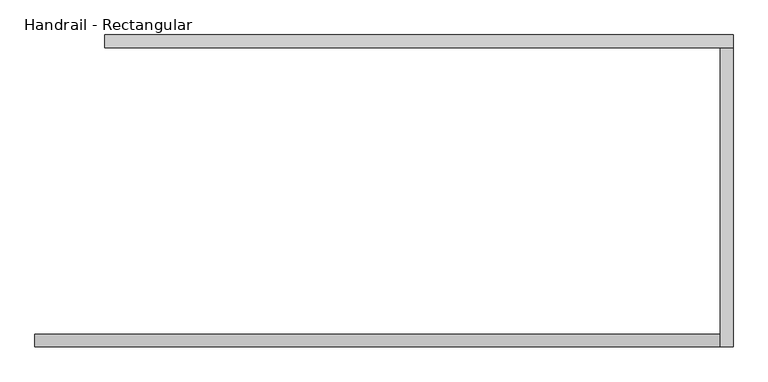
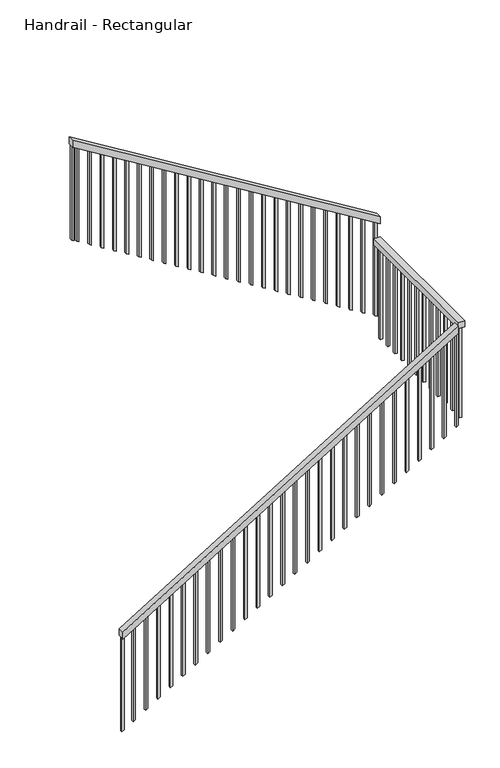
"""IFC4 building model written with IfcOpenShell, lengths in millimetres: railing geometry, Handrail - Rectangular."""

from ifc_helpers import new_model, si_unit, frame, origin, place, context, project, spatial, polyline, outline, extrude, source, transform, mapped, element, save


def handrail_rectangular_457fed54(model_context):
    return source(origin(), model_context, "Body", "SweptSolid", [
        extrude(outline(polyline([(31565.85, 447.564747), (31506.2481634, 447.564747), (33189.5754361, 3190.764747), (33249.1772727, 3190.764747), (31565.85, 447.564747)])), frame((0.0, 7683.6260405, 0.0), z_axis=(0.0, 1.0, 0.0), x_axis=(0.0, 0.0, 1.0)), (0.0, 0.0, 1.0), 50.8),
        extrude(outline(polyline([(3241.564747, 7683.6260405), (3190.764747, 7683.6260405), (3190.764747, 8880.6010405), (3241.564747, 8880.6010405), (3241.564747, 7683.6260405)])), frame((0.0, 0.0, 33229.55), z_axis=(0.0, 0.0, 1.0), x_axis=(1.0, 0.0, 0.0)), (0.0, 0.0, 1.0), 50.8),
        extrude(outline(polyline([(33392.1981634, 3241.564747), (33451.8, 3241.564747), (34994.85, 726.964747), (34935.2481634, 726.964747), (33392.1981634, 3241.564747)])), frame((0.0, 8880.6010405, 0.0), z_axis=(0.0, 1.0, 0.0), x_axis=(0.0, 0.0, 1.0)), (0.0, 0.0, 1.0), 50.8),
        extrude(outline(polyline([(34909.9203225, 768.239747), (34096.4979284, 768.239747), (34084.8081556, 787.289747), (34898.2305498, 787.289747), (34909.9203225, 768.239747)])), frame((0.0, 8896.4760405, 0.0), z_axis=(0.0, 1.0, 0.0), x_axis=(0.0, 0.0, 1.0)), (0.0, 0.0, 1.0), 19.05),
        extrude(outline(polyline([(34847.5748679, 869.839747), (34034.1524738, 869.839747), (34022.4627011, 888.889747), (34835.8850952, 888.889747), (34847.5748679, 869.839747)])), frame((0.0, 8896.4760405, 0.0), z_axis=(0.0, 1.0, 0.0), x_axis=(0.0, 0.0, 1.0)), (0.0, 0.0, 1.0), 19.05),
        extrude(outline(polyline([(34785.2294134, 971.439747), (33971.8070193, 971.439747), (33960.1172466, 990.489747), (34773.5396407, 990.489747), (34785.2294134, 971.439747)])), frame((0.0, 8896.4760405, 0.0), z_axis=(0.0, 1.0, 0.0), x_axis=(0.0, 0.0, 1.0)), (0.0, 0.0, 1.0), 19.05),
        extrude(outline(polyline([(34722.8839589, 1073.039747), (33909.4615647, 1073.039747), (33897.771792, 1092.089747), (34711.1941861, 1092.089747), (34722.8839589, 1073.039747)])), frame((0.0, 8896.4760405, 0.0), z_axis=(0.0, 1.0, 0.0), x_axis=(0.0, 0.0, 1.0)), (0.0, 0.0, 1.0), 19.05),
        extrude(outline(polyline([(34660.5385043, 1174.639747), (33847.1161102, 1174.639747), (33835.4263375, 1193.689747), (34648.8487316, 1193.689747), (34660.5385043, 1174.639747)])), frame((0.0, 8896.4760405, 0.0), z_axis=(0.0, 1.0, 0.0), x_axis=(0.0, 0.0, 1.0)), (0.0, 0.0, 1.0), 19.05),
        extrude(outline(polyline([(34598.1930498, 1276.239747), (33784.7706556, 1276.239747), (33773.0808829, 1295.289747), (34586.503277, 1295.289747), (34598.1930498, 1276.239747)])), frame((0.0, 8896.4760405, 0.0), z_axis=(0.0, 1.0, 0.0), x_axis=(0.0, 0.0, 1.0)), (0.0, 0.0, 1.0), 19.05),
        extrude(outline(polyline([(34535.8475952, 1377.839747), (33722.4252011, 1377.839747), (33710.7354284, 1396.889747), (34524.1578225, 1396.889747), (34535.8475952, 1377.839747)])), frame((0.0, 8896.4760405, 0.0), z_axis=(0.0, 1.0, 0.0), x_axis=(0.0, 0.0, 1.0)), (0.0, 0.0, 1.0), 19.05),
        extrude(outline(polyline([(34473.5021407, 1479.439747), (33660.0797466, 1479.439747), (33648.3899738, 1498.489747), (34461.8123679, 1498.489747), (34473.5021407, 1479.439747)])), frame((0.0, 8896.4760405, 0.0), z_axis=(0.0, 1.0, 0.0), x_axis=(0.0, 0.0, 1.0)), (0.0, 0.0, 1.0), 19.05),
        extrude(outline(polyline([(34411.1566861, 1581.039747), (33597.734292, 1581.039747), (33586.0445193, 1600.089747), (34399.4669134, 1600.089747), (34411.1566861, 1581.039747)])), frame((0.0, 8896.4760405, 0.0), z_axis=(0.0, 1.0, 0.0), x_axis=(0.0, 0.0, 1.0)), (0.0, 0.0, 1.0), 19.05),
        extrude(outline(polyline([(34348.8112316, 1682.639747), (33535.3888375, 1682.639747), (33523.6990647, 1701.689747), (34337.1214589, 1701.689747), (34348.8112316, 1682.639747)])), frame((0.0, 8896.4760405, 0.0), z_axis=(0.0, 1.0, 0.0), x_axis=(0.0, 0.0, 1.0)), (0.0, 0.0, 1.0), 19.05),
        extrude(outline(polyline([(34286.465777, 1784.239747), (33473.0433829, 1784.239747), (33461.3536102, 1803.289747), (34274.7760043, 1803.289747), (34286.465777, 1784.239747)])), frame((0.0, 8896.4760405, 0.0), z_axis=(0.0, 1.0, 0.0), x_axis=(0.0, 0.0, 1.0)), (0.0, 0.0, 1.0), 19.05),
        extrude(outline(polyline([(34224.1203225, 1885.839747), (33410.6979284, 1885.839747), (33399.0081556, 1904.889747), (34212.4305498, 1904.889747), (34224.1203225, 1885.839747)])), frame((0.0, 8896.4760405, 0.0), z_axis=(0.0, 1.0, 0.0), x_axis=(0.0, 0.0, 1.0)), (0.0, 0.0, 1.0), 19.05),
        extrude(outline(polyline([(34161.7748679, 1987.439747), (33348.3524738, 1987.439747), (33336.6627011, 2006.489747), (34150.0850952, 2006.489747), (34161.7748679, 1987.439747)])), frame((0.0, 8896.4760405, 0.0), z_axis=(0.0, 1.0, 0.0), x_axis=(0.0, 0.0, 1.0)), (0.0, 0.0, 1.0), 19.05),
        extrude(outline(polyline([(34099.4294134, 2089.039747), (33286.0070193, 2089.039747), (33274.3172466, 2108.089747), (34087.7396407, 2108.089747), (34099.4294134, 2089.039747)])), frame((0.0, 8896.4760405, 0.0), z_axis=(0.0, 1.0, 0.0), x_axis=(0.0, 0.0, 1.0)), (0.0, 0.0, 1.0), 19.05),
        extrude(outline(polyline([(34037.0839589, 2190.639747), (33223.6615647, 2190.639747), (33211.971792, 2209.689747), (34025.3941861, 2209.689747), (34037.0839589, 2190.639747)])), frame((0.0, 8896.4760405, 0.0), z_axis=(0.0, 1.0, 0.0), x_axis=(0.0, 0.0, 1.0)), (0.0, 0.0, 1.0), 19.05),
        extrude(outline(polyline([(33974.7385043, 2292.239747), (33161.3161102, 2292.239747), (33149.6263375, 2311.289747), (33963.0487316, 2311.289747), (33974.7385043, 2292.239747)])), frame((0.0, 8896.4760405, 0.0), z_axis=(0.0, 1.0, 0.0), x_axis=(0.0, 0.0, 1.0)), (0.0, 0.0, 1.0), 19.05),
        extrude(outline(polyline([(33912.3930498, 2393.839747), (33098.9706556, 2393.839747), (33087.2808829, 2412.889747), (33900.703277, 2412.889747), (33912.3930498, 2393.839747)])), frame((0.0, 8896.4760405, 0.0), z_axis=(0.0, 1.0, 0.0), x_axis=(0.0, 0.0, 1.0)), (0.0, 0.0, 1.0), 19.05),
        extrude(outline(polyline([(33850.0475952, 2495.439747), (33036.6252011, 2495.439747), (33024.9354284, 2514.489747), (33838.3578225, 2514.489747), (33850.0475952, 2495.439747)])), frame((0.0, 8896.4760405, 0.0), z_axis=(0.0, 1.0, 0.0), x_axis=(0.0, 0.0, 1.0)), (0.0, 0.0, 1.0), 19.05),
        extrude(outline(polyline([(33787.7021407, 2597.039747), (32974.2797466, 2597.039747), (32962.5899738, 2616.089747), (33776.0123679, 2616.089747), (33787.7021407, 2597.039747)])), frame((0.0, 8896.4760405, 0.0), z_axis=(0.0, 1.0, 0.0), x_axis=(0.0, 0.0, 1.0)), (0.0, 0.0, 1.0), 19.05),
        extrude(outline(polyline([(33725.3566861, 2698.639747), (32911.934292, 2698.639747), (32900.2445193, 2717.689747), (33713.6669134, 2717.689747), (33725.3566861, 2698.639747)])), frame((0.0, 8896.4760405, 0.0), z_axis=(0.0, 1.0, 0.0), x_axis=(0.0, 0.0, 1.0)), (0.0, 0.0, 1.0), 19.05),
        extrude(outline(polyline([(33663.0112316, 2800.239747), (32849.5888375, 2800.239747), (32837.8990647, 2819.289747), (33651.3214589, 2819.289747), (33663.0112316, 2800.239747)])), frame((0.0, 8896.4760405, 0.0), z_axis=(0.0, 1.0, 0.0), x_axis=(0.0, 0.0, 1.0)), (0.0, 0.0, 1.0), 19.05),
        extrude(outline(polyline([(33600.665777, 2901.839747), (32787.2433829, 2901.839747), (32775.5536102, 2920.889747), (33588.9760043, 2920.889747), (33600.665777, 2901.839747)])), frame((0.0, 8896.4760405, 0.0), z_axis=(0.0, 1.0, 0.0), x_axis=(0.0, 0.0, 1.0)), (0.0, 0.0, 1.0), 19.05),
        extrude(outline(polyline([(33538.3203225, 3003.439747), (32724.8979284, 3003.439747), (32713.2081556, 3022.489747), (33526.6305498, 3022.489747), (33538.3203225, 3003.439747)])), frame((0.0, 8896.4760405, 0.0), z_axis=(0.0, 1.0, 0.0), x_axis=(0.0, 0.0, 1.0)), (0.0, 0.0, 1.0), 19.05),
        extrude(outline(polyline([(33475.9748679, 3105.039747), (32662.5524738, 3105.039747), (32650.8627011, 3124.089747), (33464.2850952, 3124.089747), (33475.9748679, 3105.039747)])), frame((0.0, 8896.4760405, 0.0), z_axis=(0.0, 1.0, 0.0), x_axis=(0.0, 0.0, 1.0)), (0.0, 0.0, 1.0), 19.05),
        extrude(outline(polyline([(3206.639747, 8817.1010405), (3206.639747, 8836.1510405), (3225.689747, 8836.1510405), (3225.689747, 8817.1010405), (3206.639747, 8817.1010405)])), frame((0.0, 0.0, 32442.15), z_axis=(0.0, 0.0, 1.0), x_axis=(1.0, 0.0, 0.0)), (0.0, 0.0, 1.0), 787.4),
        extrude(outline(polyline([(3206.639747, 8715.5010405), (3206.639747, 8734.5510405), (3225.689747, 8734.5510405), (3225.689747, 8715.5010405), (3206.639747, 8715.5010405)])), frame((0.0, 0.0, 32442.15), z_axis=(0.0, 0.0, 1.0), x_axis=(1.0, 0.0, 0.0)), (0.0, 0.0, 1.0), 787.4),
        extrude(outline(polyline([(3206.639747, 8613.9010405), (3206.639747, 8632.9510405), (3225.689747, 8632.9510405), (3225.689747, 8613.9010405), (3206.639747, 8613.9010405)])), frame((0.0, 0.0, 32442.15), z_axis=(0.0, 0.0, 1.0), x_axis=(1.0, 0.0, 0.0)), (0.0, 0.0, 1.0), 787.4),
        extrude(outline(polyline([(3206.639747, 8512.3010405), (3206.639747, 8531.3510405), (3225.689747, 8531.3510405), (3225.689747, 8512.3010405), (3206.639747, 8512.3010405)])), frame((0.0, 0.0, 32442.15), z_axis=(0.0, 0.0, 1.0), x_axis=(1.0, 0.0, 0.0)), (0.0, 0.0, 1.0), 787.4),
        extrude(outline(polyline([(3206.639747, 8410.7010405), (3206.639747, 8429.7510405), (3225.689747, 8429.7510405), (3225.689747, 8410.7010405), (3206.639747, 8410.7010405)])), frame((0.0, 0.0, 32442.15), z_axis=(0.0, 0.0, 1.0), x_axis=(1.0, 0.0, 0.0)), (0.0, 0.0, 1.0), 787.4),
        extrude(outline(polyline([(3206.639747, 8309.1010405), (3206.639747, 8328.1510405), (3225.689747, 8328.1510405), (3225.689747, 8309.1010405), (3206.639747, 8309.1010405)])), frame((0.0, 0.0, 32442.15), z_axis=(0.0, 0.0, 1.0), x_axis=(1.0, 0.0, 0.0)), (0.0, 0.0, 1.0), 787.4),
        extrude(outline(polyline([(3206.639747, 8207.5010405), (3206.639747, 8226.5510405), (3225.689747, 8226.5510405), (3225.689747, 8207.5010405), (3206.639747, 8207.5010405)])), frame((0.0, 0.0, 32442.15), z_axis=(0.0, 0.0, 1.0), x_axis=(1.0, 0.0, 0.0)), (0.0, 0.0, 1.0), 787.4),
        extrude(outline(polyline([(3206.639747, 8105.9010405), (3206.639747, 8124.9510405), (3225.689747, 8124.9510405), (3225.689747, 8105.9010405), (3206.639747, 8105.9010405)])), frame((0.0, 0.0, 32442.15), z_axis=(0.0, 0.0, 1.0), x_axis=(1.0, 0.0, 0.0)), (0.0, 0.0, 1.0), 787.4),
        extrude(outline(polyline([(3206.639747, 8004.3010405), (3206.639747, 8023.3510405), (3225.689747, 8023.3510405), (3225.689747, 8004.3010405), (3206.639747, 8004.3010405)])), frame((0.0, 0.0, 32442.15), z_axis=(0.0, 0.0, 1.0), x_axis=(1.0, 0.0, 0.0)), (0.0, 0.0, 1.0), 787.4),
        extrude(outline(polyline([(3206.639747, 7902.7010405), (3206.639747, 7921.7510405), (3225.689747, 7921.7510405), (3225.689747, 7902.7010405), (3206.639747, 7902.7010405)])), frame((0.0, 0.0, 32442.15), z_axis=(0.0, 0.0, 1.0), x_axis=(1.0, 0.0, 0.0)), (0.0, 0.0, 1.0), 787.4),
        extrude(outline(polyline([(3206.639747, 7801.1010405), (3206.639747, 7820.1510405), (3225.689747, 7820.1510405), (3225.689747, 7801.1010405), (3206.639747, 7801.1010405)])), frame((0.0, 0.0, 32442.15), z_axis=(0.0, 0.0, 1.0), x_axis=(1.0, 0.0, 0.0)), (0.0, 0.0, 1.0), 787.4),
        extrude(outline(polyline([(33183.7305498, 3181.239747), (32370.3081556, 3181.239747), (32381.9979284, 3200.289747), (33195.4203225, 3200.289747), (33183.7305498, 3181.239747)])), frame((0.0, 7699.5010405, 0.0), z_axis=(0.0, 1.0, 0.0), x_axis=(0.0, 0.0, 1.0)), (0.0, 0.0, 1.0), 19.05),
        extrude(outline(polyline([(33121.3850952, 3079.639747), (32307.9627011, 3079.639747), (32319.6524738, 3098.689747), (33133.0748679, 3098.689747), (33121.3850952, 3079.639747)])), frame((0.0, 7699.5010405, 0.0), z_axis=(0.0, 1.0, 0.0), x_axis=(0.0, 0.0, 1.0)), (0.0, 0.0, 1.0), 19.05),
        extrude(outline(polyline([(33059.0396407, 2978.039747), (32245.6172466, 2978.039747), (32257.3070193, 2997.089747), (33070.7294134, 2997.089747), (33059.0396407, 2978.039747)])), frame((0.0, 7699.5010405, 0.0), z_axis=(0.0, 1.0, 0.0), x_axis=(0.0, 0.0, 1.0)), (0.0, 0.0, 1.0), 19.05),
        extrude(outline(polyline([(32996.6941861, 2876.439747), (32183.271792, 2876.439747), (32194.9615647, 2895.489747), (33008.3839589, 2895.489747), (32996.6941861, 2876.439747)])), frame((0.0, 7699.5010405, 0.0), z_axis=(0.0, 1.0, 0.0), x_axis=(0.0, 0.0, 1.0)), (0.0, 0.0, 1.0), 19.05),
        extrude(outline(polyline([(32934.3487316, 2774.839747), (32120.9263375, 2774.839747), (32132.6161102, 2793.889747), (32946.0385043, 2793.889747), (32934.3487316, 2774.839747)])), frame((0.0, 7699.5010405, 0.0), z_axis=(0.0, 1.0, 0.0), x_axis=(0.0, 0.0, 1.0)), (0.0, 0.0, 1.0), 19.05),
        extrude(outline(polyline([(32872.003277, 2673.239747), (32058.5808829, 2673.239747), (32070.2706556, 2692.289747), (32883.6930498, 2692.289747), (32872.003277, 2673.239747)])), frame((0.0, 7699.5010405, 0.0), z_axis=(0.0, 1.0, 0.0), x_axis=(0.0, 0.0, 1.0)), (0.0, 0.0, 1.0), 19.05),
        extrude(outline(polyline([(32809.6578225, 2571.639747), (31996.2354284, 2571.639747), (32007.9252011, 2590.689747), (32821.3475952, 2590.689747), (32809.6578225, 2571.639747)])), frame((0.0, 7699.5010405, 0.0), z_axis=(0.0, 1.0, 0.0), x_axis=(0.0, 0.0, 1.0)), (0.0, 0.0, 1.0), 19.05),
        extrude(outline(polyline([(32747.3123679, 2470.039747), (31933.8899738, 2470.039747), (31945.5797466, 2489.089747), (32759.0021407, 2489.089747), (32747.3123679, 2470.039747)])), frame((0.0, 7699.5010405, 0.0), z_axis=(0.0, 1.0, 0.0), x_axis=(0.0, 0.0, 1.0)), (0.0, 0.0, 1.0), 19.05),
        extrude(outline(polyline([(32684.9669134, 2368.439747), (31871.5445193, 2368.439747), (31883.234292, 2387.489747), (32696.6566861, 2387.489747), (32684.9669134, 2368.439747)])), frame((0.0, 7699.5010405, 0.0), z_axis=(0.0, 1.0, 0.0), x_axis=(0.0, 0.0, 1.0)), (0.0, 0.0, 1.0), 19.05),
        extrude(outline(polyline([(32622.6214589, 2266.839747), (31809.1990647, 2266.839747), (31820.8888375, 2285.889747), (32634.3112316, 2285.889747), (32622.6214589, 2266.839747)])), frame((0.0, 7699.5010405, 0.0), z_axis=(0.0, 1.0, 0.0), x_axis=(0.0, 0.0, 1.0)), (0.0, 0.0, 1.0), 19.05),
        extrude(outline(polyline([(32560.2760043, 2165.239747), (31746.8536102, 2165.239747), (31758.5433829, 2184.289747), (32571.965777, 2184.289747), (32560.2760043, 2165.239747)])), frame((0.0, 7699.5010405, 0.0), z_axis=(0.0, 1.0, 0.0), x_axis=(0.0, 0.0, 1.0)), (0.0, 0.0, 1.0), 19.05),
        extrude(outline(polyline([(32497.9305498, 2063.639747), (31684.5081556, 2063.639747), (31696.1979284, 2082.689747), (32509.6203225, 2082.689747), (32497.9305498, 2063.639747)])), frame((0.0, 7699.5010405, 0.0), z_axis=(0.0, 1.0, 0.0), x_axis=(0.0, 0.0, 1.0)), (0.0, 0.0, 1.0), 19.05),
        extrude(outline(polyline([(32435.5850952, 1962.039747), (31622.1627011, 1962.039747), (31633.8524738, 1981.089747), (32447.2748679, 1981.089747), (32435.5850952, 1962.039747)])), frame((0.0, 7699.5010405, 0.0), z_axis=(0.0, 1.0, 0.0), x_axis=(0.0, 0.0, 1.0)), (0.0, 0.0, 1.0), 19.05),
        extrude(outline(polyline([(32373.2396407, 1860.439747), (31559.8172466, 1860.439747), (31571.5070193, 1879.489747), (32384.9294134, 1879.489747), (32373.2396407, 1860.439747)])), frame((0.0, 7699.5010405, 0.0), z_axis=(0.0, 1.0, 0.0), x_axis=(0.0, 0.0, 1.0)), (0.0, 0.0, 1.0), 19.05),
        extrude(outline(polyline([(32310.8941861, 1758.839747), (31497.471792, 1758.839747), (31509.1615647, 1777.889747), (32322.5839589, 1777.889747), (32310.8941861, 1758.839747)])), frame((0.0, 7699.5010405, 0.0), z_axis=(0.0, 1.0, 0.0), x_axis=(0.0, 0.0, 1.0)), (0.0, 0.0, 1.0), 19.05),
        extrude(outline(polyline([(32248.5487316, 1657.239747), (31435.1263375, 1657.239747), (31446.8161102, 1676.289747), (32260.2385043, 1676.289747), (32248.5487316, 1657.239747)])), frame((0.0, 7699.5010405, 0.0), z_axis=(0.0, 1.0, 0.0), x_axis=(0.0, 0.0, 1.0)), (0.0, 0.0, 1.0), 19.05),
        extrude(outline(polyline([(32186.203277, 1555.639747), (31372.7808829, 1555.639747), (31384.4706556, 1574.689747), (32197.8930498, 1574.689747), (32186.203277, 1555.639747)])), frame((0.0, 7699.5010405, 0.0), z_axis=(0.0, 1.0, 0.0), x_axis=(0.0, 0.0, 1.0)), (0.0, 0.0, 1.0), 19.05),
        extrude(outline(polyline([(32123.8578225, 1454.039747), (31310.4354284, 1454.039747), (31322.1252011, 1473.089747), (32135.5475952, 1473.089747), (32123.8578225, 1454.039747)])), frame((0.0, 7699.5010405, 0.0), z_axis=(0.0, 1.0, 0.0), x_axis=(0.0, 0.0, 1.0)), (0.0, 0.0, 1.0), 19.05),
        extrude(outline(polyline([(32061.5123679, 1352.439747), (31248.0899738, 1352.439747), (31259.7797466, 1371.489747), (32073.2021407, 1371.489747), (32061.5123679, 1352.439747)])), frame((0.0, 7699.5010405, 0.0), z_axis=(0.0, 1.0, 0.0), x_axis=(0.0, 0.0, 1.0)), (0.0, 0.0, 1.0), 19.05),
        extrude(outline(polyline([(31999.1669134, 1250.839747), (31185.7445193, 1250.839747), (31197.434292, 1269.889747), (32010.8566861, 1269.889747), (31999.1669134, 1250.839747)])), frame((0.0, 7699.5010405, 0.0), z_axis=(0.0, 1.0, 0.0), x_axis=(0.0, 0.0, 1.0)), (0.0, 0.0, 1.0), 19.05),
        extrude(outline(polyline([(31936.8214589, 1149.239747), (31123.3990647, 1149.239747), (31135.0888375, 1168.289747), (31948.5112316, 1168.289747), (31936.8214589, 1149.239747)])), frame((0.0, 7699.5010405, 0.0), z_axis=(0.0, 1.0, 0.0), x_axis=(0.0, 0.0, 1.0)), (0.0, 0.0, 1.0), 19.05),
        extrude(outline(polyline([(31874.4760043, 1047.639747), (31061.0536102, 1047.639747), (31072.7433829, 1066.689747), (31886.165777, 1066.689747), (31874.4760043, 1047.639747)])), frame((0.0, 7699.5010405, 0.0), z_axis=(0.0, 1.0, 0.0), x_axis=(0.0, 0.0, 1.0)), (0.0, 0.0, 1.0), 19.05),
        extrude(outline(polyline([(31812.1305498, 946.039747), (30998.7081556, 946.039747), (31010.3979284, 965.089747), (31823.8203225, 965.089747), (31812.1305498, 946.039747)])), frame((0.0, 7699.5010405, 0.0), z_axis=(0.0, 1.0, 0.0), x_axis=(0.0, 0.0, 1.0)), (0.0, 0.0, 1.0), 19.05),
        extrude(outline(polyline([(31749.7850952, 844.439747), (30936.3627011, 844.439747), (30948.0524738, 863.489747), (31761.4748679, 863.489747), (31749.7850952, 844.439747)])), frame((0.0, 7699.5010405, 0.0), z_axis=(0.0, 1.0, 0.0), x_axis=(0.0, 0.0, 1.0)), (0.0, 0.0, 1.0), 19.05),
        extrude(outline(polyline([(31687.4396407, 742.839747), (30874.0172466, 742.839747), (30885.7070193, 761.889747), (31699.1294134, 761.889747), (31687.4396407, 742.839747)])), frame((0.0, 7699.5010405, 0.0), z_axis=(0.0, 1.0, 0.0), x_axis=(0.0, 0.0, 1.0)), (0.0, 0.0, 1.0), 19.05),
        extrude(outline(polyline([(31625.0941861, 641.239747), (30811.671792, 641.239747), (30823.3615647, 660.289747), (31636.7839589, 660.289747), (31625.0941861, 641.239747)])), frame((0.0, 7699.5010405, 0.0), z_axis=(0.0, 1.0, 0.0), x_axis=(0.0, 0.0, 1.0)), (0.0, 0.0, 1.0), 19.05),
        extrude(outline(polyline([(31562.7487316, 539.639747), (30749.3263375, 539.639747), (30761.0161102, 558.689747), (31574.4385043, 558.689747), (31562.7487316, 539.639747)])), frame((0.0, 7699.5010405, 0.0), z_axis=(0.0, 1.0, 0.0), x_axis=(0.0, 0.0, 1.0)), (0.0, 0.0, 1.0), 19.05),
        extrude(outline(polyline([(33413.6294134, 3206.639747), (32600.2070193, 3206.639747), (32588.5172466, 3225.689747), (33401.9396407, 3225.689747), (33413.6294134, 3206.639747)])), frame((0.0, 8896.4760405, 0.0), z_axis=(0.0, 1.0, 0.0), x_axis=(0.0, 0.0, 1.0)), (0.0, 0.0, 1.0), 19.05),
        extrude(outline(polyline([(3206.639747, 7699.5010405), (3206.639747, 7718.5510405), (3225.689747, 7718.5510405), (3225.689747, 7699.5010405), (3206.639747, 7699.5010405)])), frame((0.0, 0.0, 32442.15), z_axis=(0.0, 0.0, 1.0), x_axis=(1.0, 0.0, 0.0)), (0.0, 0.0, 1.0), 787.4),
        extrude(outline(polyline([(34935.2481634, 726.964747), (34121.8257693, 726.964747), (34110.1359966, 746.014747), (34923.5583907, 746.014747), (34935.2481634, 726.964747)])), frame((0.0, 8896.4760405, 0.0), z_axis=(0.0, 1.0, 0.0), x_axis=(0.0, 0.0, 1.0)), (0.0, 0.0, 1.0), 19.05),
        extrude(outline(polyline([(31506.2481634, 447.564747), (30692.8257693, 447.564747), (30704.515542, 466.614747), (31517.9379361, 466.614747), (31506.2481634, 447.564747)])), frame((0.0, 7699.5010405, 0.0), z_axis=(0.0, 1.0, 0.0), x_axis=(0.0, 0.0, 1.0)), (0.0, 0.0, 1.0), 19.05),
    ])


if __name__ == "__main__":
    model = new_model("IFC4")
    model_context = context("Model", 3, world=origin())
    ifc_project = project(units=[si_unit("LENGTHUNIT", "METRE", prefix="MILLI")], contexts=[model_context])
    site = spatial("IfcSite", under=ifc_project)
    building = spatial("IfcBuilding", under=site)
    placement = place(None, origin())
    handrail_rectangular_shape = handrail_rectangular_457fed54(model_context)
    element("IfcRailing", 1, ObjectType="Handrail - Rectangular", at=placement, inside=building, context=model_context, shape_type="MappedRepresentation", body=[
        mapped(handrail_rectangular_shape, transform((0.0, 0.0, 0.0), x_axis=(1.0, 0.0, 0.0), y_axis=(0.0, 1.0, 0.0), z_axis=(0.0, 0.0, 1.0))),
    ])
    save(model, "model.ifc")
